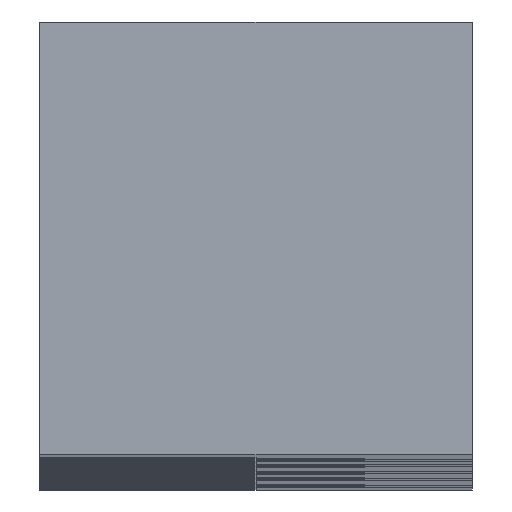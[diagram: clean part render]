
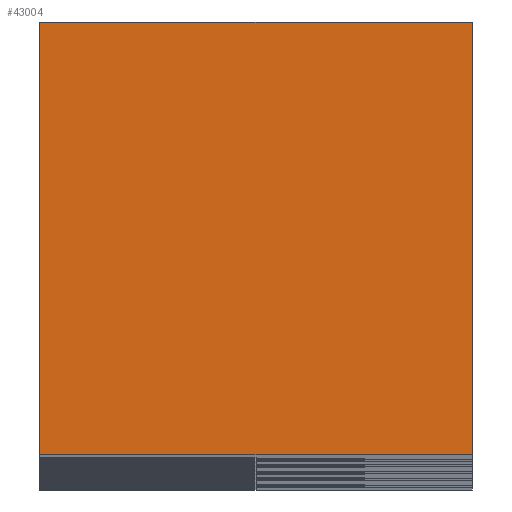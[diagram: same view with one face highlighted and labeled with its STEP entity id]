
A CAD part, top view. The second image highlights one B-rep face of the part: STEP entity #43004.
In plain terms, the highlighted planar face has unit normal (0, 0, 1).
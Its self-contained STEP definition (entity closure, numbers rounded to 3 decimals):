
#32 = PLANE('',#33);
#33 = AXIS2_PLACEMENT_3D('',#34,#35,#36);
#34 = CARTESIAN_POINT('',(-1.6,1.6,-75.));
#35 = DIRECTION('',(1.,0.,0.));
#36 = DIRECTION('',(0.,-1.,0.));
#57 = VERTEX_POINT('',#58);
#58 = CARTESIAN_POINT('',(-1.6,1.6,75.));
#72 = PLANE('',#73);
#73 = AXIS2_PLACEMENT_3D('',#74,#75,#76);
#74 = CARTESIAN_POINT('',(1.6,1.6,-75.));
#75 = DIRECTION('',(0.,-1.,0.));
#76 = DIRECTION('',(-1.,0.,0.));
#84 = EDGE_CURVE('',#57,#85,#87,.T.);
#85 = VERTEX_POINT('',#86);
#86 = CARTESIAN_POINT('',(-1.6,-1.6,75.));
#87 = SURFACE_CURVE('',#88,(#92,#99),.PCURVE_S1.);
#88 = LINE('',#89,#90);
#89 = CARTESIAN_POINT('',(-1.6,1.6,75.));
#90 = VECTOR('',#91,1.);
#91 = DIRECTION('',(0.,-1.,0.));
#92 = PCURVE('',#32,#93);
#93 = DEFINITIONAL_REPRESENTATION('',(#94),#98);
#94 = LINE('',#95,#96);
#95 = CARTESIAN_POINT('',(0.,-150.));
#96 = VECTOR('',#97,1.);
#97 = DIRECTION('',(1.,0.));
#98 = ( GEOMETRIC_REPRESENTATION_CONTEXT(2) 
PARAMETRIC_REPRESENTATION_CONTEXT() REPRESENTATION_CONTEXT('2D SPACE',''
  ) );
#99 = PCURVE('',#100,#105);
#100 = PLANE('',#101);
#101 = AXIS2_PLACEMENT_3D('',#102,#103,#104);
#102 = CARTESIAN_POINT('',(0.,0.,75.));
#103 = DIRECTION('',(0.,0.,1.));
#104 = DIRECTION('',(1.,0.,0.));
#105 = DEFINITIONAL_REPRESENTATION('',(#106),#110);
#106 = LINE('',#107,#108);
#107 = CARTESIAN_POINT('',(-1.6,1.6));
#108 = VECTOR('',#109,1.);
#109 = DIRECTION('',(0.,-1.));
#110 = ( GEOMETRIC_REPRESENTATION_CONTEXT(2) 
PARAMETRIC_REPRESENTATION_CONTEXT() REPRESENTATION_CONTEXT('2D SPACE',''
  ) );
#128 = PLANE('',#129);
#129 = AXIS2_PLACEMENT_3D('',#130,#131,#132);
#130 = CARTESIAN_POINT('',(-1.6,-1.6,-75.));
#131 = DIRECTION('',(0.,1.,0.));
#132 = DIRECTION('',(1.,0.,0.));
#15231 = PLANE('',#15232);
#15232 = AXIS2_PLACEMENT_3D('',#15233,#15234,#15235);
#15233 = CARTESIAN_POINT('',(1.6,-1.6,-75.));
#15234 = DIRECTION('',(-1.,0.,0.));
#15235 = DIRECTION('',(0.,1.,0.));
#42960 = VERTEX_POINT('',#42961);
#42961 = CARTESIAN_POINT('',(1.6,-1.6,75.));
#42984 = EDGE_CURVE('',#85,#42960,#42985,.T.);
#42985 = SURFACE_CURVE('',#42986,(#42990,#42997),.PCURVE_S1.);
#42986 = LINE('',#42987,#42988);
#42987 = CARTESIAN_POINT('',(-1.6,-1.6,75.));
#42988 = VECTOR('',#42989,1.);
#42989 = DIRECTION('',(1.,0.,0.));
#42990 = PCURVE('',#128,#42991);
#42991 = DEFINITIONAL_REPRESENTATION('',(#42992),#42996);
#42992 = LINE('',#42993,#42994);
#42993 = CARTESIAN_POINT('',(0.,-150.));
#42994 = VECTOR('',#42995,1.);
#42995 = DIRECTION('',(1.,0.));
#42996 = ( GEOMETRIC_REPRESENTATION_CONTEXT(2) 
PARAMETRIC_REPRESENTATION_CONTEXT() REPRESENTATION_CONTEXT('2D SPACE',''
  ) );
#42997 = PCURVE('',#100,#42998);
#42998 = DEFINITIONAL_REPRESENTATION('',(#42999),#43003);
#42999 = LINE('',#43000,#43001);
#43000 = CARTESIAN_POINT('',(-1.6,-1.6));
#43001 = VECTOR('',#43002,1.);
#43002 = DIRECTION('',(1.,0.));
#43003 = ( GEOMETRIC_REPRESENTATION_CONTEXT(2) 
PARAMETRIC_REPRESENTATION_CONTEXT() REPRESENTATION_CONTEXT('2D SPACE',''
  ) );
#43004 = ADVANCED_FACE('',(#43005),#100,.T.);
#43005 = FACE_BOUND('',#43006,.T.);
#43006 = EDGE_LOOP('',(#43007,#43008,#43009,#43032));
#43007 = ORIENTED_EDGE('',*,*,#84,.T.);
#43008 = ORIENTED_EDGE('',*,*,#42984,.T.);
#43009 = ORIENTED_EDGE('',*,*,#43010,.T.);
#43010 = EDGE_CURVE('',#42960,#43011,#43013,.T.);
#43011 = VERTEX_POINT('',#43012);
#43012 = CARTESIAN_POINT('',(1.6,1.6,75.));
#43013 = SURFACE_CURVE('',#43014,(#43018,#43025),.PCURVE_S1.);
#43014 = LINE('',#43015,#43016);
#43015 = CARTESIAN_POINT('',(1.6,-1.6,75.));
#43016 = VECTOR('',#43017,1.);
#43017 = DIRECTION('',(0.,1.,0.));
#43018 = PCURVE('',#100,#43019);
#43019 = DEFINITIONAL_REPRESENTATION('',(#43020),#43024);
#43020 = LINE('',#43021,#43022);
#43021 = CARTESIAN_POINT('',(1.6,-1.6));
#43022 = VECTOR('',#43023,1.);
#43023 = DIRECTION('',(0.,1.));
#43024 = ( GEOMETRIC_REPRESENTATION_CONTEXT(2) 
PARAMETRIC_REPRESENTATION_CONTEXT() REPRESENTATION_CONTEXT('2D SPACE',''
  ) );
#43025 = PCURVE('',#15231,#43026);
#43026 = DEFINITIONAL_REPRESENTATION('',(#43027),#43031);
#43027 = LINE('',#43028,#43029);
#43028 = CARTESIAN_POINT('',(0.,-150.));
#43029 = VECTOR('',#43030,1.);
#43030 = DIRECTION('',(1.,0.));
#43031 = ( GEOMETRIC_REPRESENTATION_CONTEXT(2) 
PARAMETRIC_REPRESENTATION_CONTEXT() REPRESENTATION_CONTEXT('2D SPACE',''
  ) );
#43032 = ORIENTED_EDGE('',*,*,#43033,.T.);
#43033 = EDGE_CURVE('',#43011,#57,#43034,.T.);
#43034 = SURFACE_CURVE('',#43035,(#43039,#43046),.PCURVE_S1.);
#43035 = LINE('',#43036,#43037);
#43036 = CARTESIAN_POINT('',(1.6,1.6,75.));
#43037 = VECTOR('',#43038,1.);
#43038 = DIRECTION('',(-1.,0.,0.));
#43039 = PCURVE('',#100,#43040);
#43040 = DEFINITIONAL_REPRESENTATION('',(#43041),#43045);
#43041 = LINE('',#43042,#43043);
#43042 = CARTESIAN_POINT('',(1.6,1.6));
#43043 = VECTOR('',#43044,1.);
#43044 = DIRECTION('',(-1.,0.));
#43045 = ( GEOMETRIC_REPRESENTATION_CONTEXT(2) 
PARAMETRIC_REPRESENTATION_CONTEXT() REPRESENTATION_CONTEXT('2D SPACE',''
  ) );
#43046 = PCURVE('',#72,#43047);
#43047 = DEFINITIONAL_REPRESENTATION('',(#43048),#43052);
#43048 = LINE('',#43049,#43050);
#43049 = CARTESIAN_POINT('',(0.,-150.));
#43050 = VECTOR('',#43051,1.);
#43051 = DIRECTION('',(1.,0.));
#43052 = ( GEOMETRIC_REPRESENTATION_CONTEXT(2) 
PARAMETRIC_REPRESENTATION_CONTEXT() REPRESENTATION_CONTEXT('2D SPACE',''
  ) );
